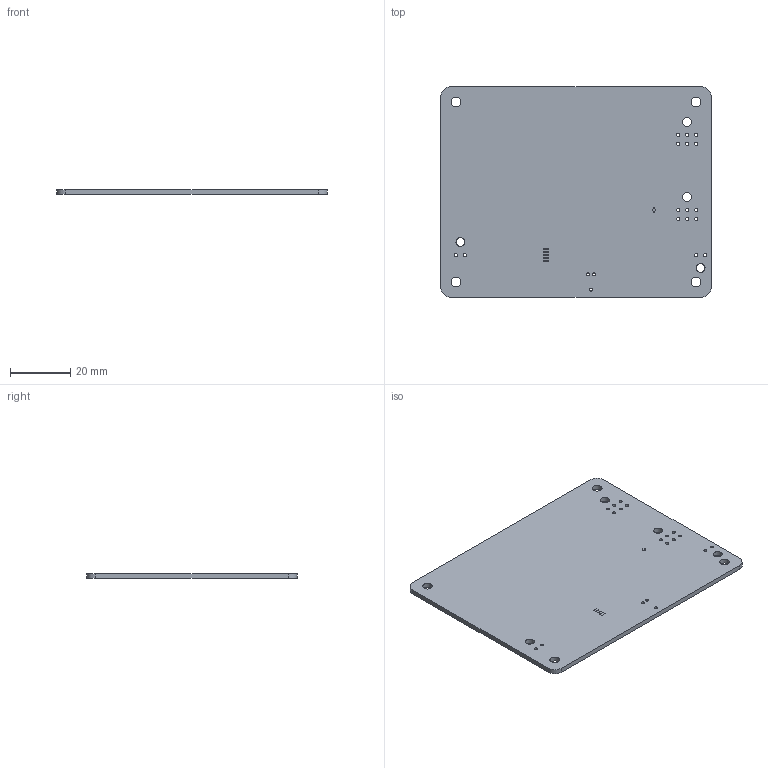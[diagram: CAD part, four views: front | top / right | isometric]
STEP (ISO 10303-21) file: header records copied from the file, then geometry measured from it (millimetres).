
FILE_DESCRIPTION(('Open CASCADE Model'),'2;1');
FILE_NAME('Open CASCADE Shape Model','2026-11-02T21:43:31',('Author'),( 'Open CASCADE'),'Open CASCADE STEP processor 7.5','Open CASCADE 7.5' ,'Unknown');
FILE_SCHEMA(('AUTOMOTIVE_DESIGN { 1 0 10303 214 1 1 1 1 }'));
Length unit declared in the file: millimetre
Products named in the file (3): PCB; Board; Open CASCADE STEP translator 7.5 2.1.1
Assembly tree (2 placements, depth 3):
  PCB
    Board
      Open CASCADE STEP translator 7.5 2.1.1
Bounding box: 90 x 70 x 1.62 mm (x, y, z)
Volume: 10078.6 mm3; surface area: 13186.1 mm2
Topology: 1 solids, 1 shells, 56 faces, 162 edges, 108 vertices
Faces by surface type: cylinder 50, plane 6
Full cylindrical faces by diameter (mm): 0.2 x19, 0.99 x3, 1.02 x16, 3 x4, 3.2 x4
Entity records: 2147 total; most frequent: DIRECTION 380, CARTESIAN_POINT 329, ORIENTED_EDGE 324, EDGE_CURVE 162, AXIS2_PLACEMENT_3D 159, FACE_BOUND 148, EDGE_LOOP 148, VERTEX_POINT 108
